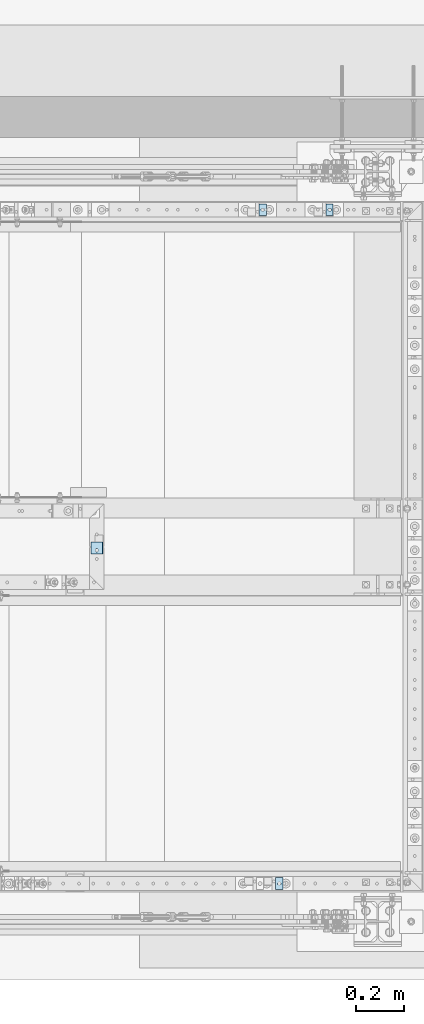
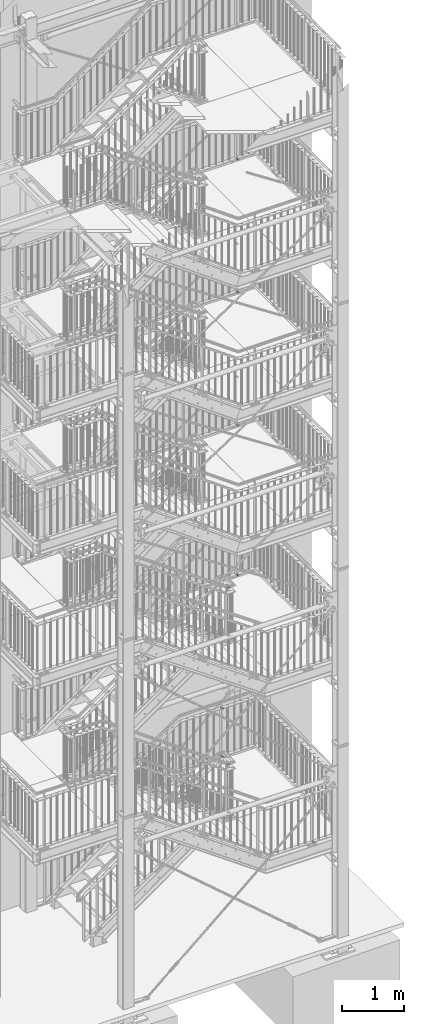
# One storey, part 229 of 825: 14 plates, 14 openings.
"""IFC2X3 building model written with IfcOpenShell, lengths in millimetres."""

import ifcopenshell
import ifcopenshell.guid

model = None  # the IFC model being written
_history = None  # IfcOwnerHistory: only IFC2X3 demands one
_inside = {}  # id of a spatial element -> (the spatial element, [elements in it])
_under = {}  # id of a project, library or spatial element -> (it, [spatial elements below it])
_declared = {}  # id of a project -> (the project, [libraries it declares])
_typed = {}  # id of a type object -> (the type object, [elements of that type])
_made_of = {}  # id of a material, layer set ... -> (it, [elements and type objects made of it])


def new_model(schema):
    """Start an empty IFC model of exactly this schema.

    Asked for "IFC4X3", IfcOpenShell would pick the latest addendum, in which some entities
    have other attributes; the version numbers below select the first issue.
    IFC2X3 requires an IfcOwnerHistory on every rooted entity: one is made here for all.
    """
    global model, _history
    if schema == "IFC4X3":
        model = ifcopenshell.file(schema_version=(4, 3, 0, 0))
    else:
        model = ifcopenshell.file(schema=schema)
    _inside.clear()
    _under.clear()
    _declared.clear()
    _typed.clear()
    _made_of.clear()
    _history = None
    if model.schema == "IFC2X3":
        org = make("IfcOrganization", Name="unknown")
        user = make(
            "IfcPersonAndOrganization",
            ThePerson=make("IfcPerson", FamilyName="unknown"),
            TheOrganization=org,
        )
        app = make(
            "IfcApplication",
            ApplicationDeveloper=org,
            Version="unknown",
            ApplicationFullName="unknown",
            ApplicationIdentifier="unknown",
        )
        _history = make(
            "IfcOwnerHistory",
            OwningUser=user,
            OwningApplication=app,
            ChangeAction="ADDED",
            CreationDate=0,
        )
    return model


def make(cls, **values):
    """One entity of the class cls with the attributes given. An attribute that is None is left unset."""
    return model.create_entity(
        cls, **{name: value for name, value in values.items() if value is not None}
    )


def entity(cls, *values):
    """Any entity or typed value of the class cls, its attributes in the order of the schema. None: left unset."""
    e = model.create_entity(cls)
    for i, value in enumerate(values):
        if value is not None:
            e[i] = value
    return e


def rooted(cls, **values):
    """An entity with a GlobalId (a new one), such as an element, a storey or a relation."""
    return make(cls, GlobalId=ifcopenshell.guid.new(), OwnerHistory=_history, **values)


def si_unit(unit_type, name, prefix=None):
    """IfcSIUnit, for example si_unit("LENGTHUNIT", "METRE", prefix="MILLI")."""
    return make("IfcSIUnit", UnitType=unit_type, Prefix=prefix, Name=name)


def converted_unit(unit_type, name, factor, base, dimensions=None, offset=None):
    """IfcConversionBasedUnit, such as the inch: factor (a typed value) times the base unit."""
    return make(
        "IfcConversionBasedUnit"
        if offset is None
        else "IfcConversionBasedUnitWithOffset",
        ConversionOffset=offset,
        Dimensions=None
        if dimensions is None
        else entity("IfcDimensionalExponents", *dimensions),
        UnitType=unit_type,
        Name=name,
        ConversionFactor=make(
            "IfcMeasureWithUnit", ValueComponent=factor, UnitComponent=base
        ),
    )


def assignment(units):
    """IfcUnitAssignment: the units of a project."""
    return None if units is None else make("IfcUnitAssignment", Units=units)


def point(xyz):
    """IfcCartesianPoint."""
    return None if xyz is None else make("IfcCartesianPoint", Coordinates=xyz)


def direction(xyz):
    """IfcDirection."""
    return None if xyz is None else make("IfcDirection", DirectionRatios=xyz)


def frame(location, z_axis=None, x_axis=None):
    """IfcAxis2Placement3D, a coordinate frame: its origin and axes. An axis left out is left unset."""
    return make(
        "IfcAxis2Placement3D",
        Location=point(location),
        Axis=direction(z_axis),
        RefDirection=direction(x_axis),
    )


def frame_2d(location, x_axis=None):
    """IfcAxis2Placement2D, a coordinate frame in the plane: its origin and x axis."""
    return make(
        "IfcAxis2Placement2D", Location=point(location), RefDirection=direction(x_axis)
    )


def origin():
    """The frame at (0, 0, 0) with its axes left unset."""
    return frame((0.0, 0.0, 0.0))


def origin_with_axes():
    """The frame at (0, 0, 0) with the z axis (0, 0, 1) and the x axis (1, 0, 0) written out."""
    return frame((0.0, 0.0, 0.0), z_axis=(0.0, 0.0, 1.0), x_axis=(1.0, 0.0, 0.0))


def place(relative_to, where):
    """IfcLocalPlacement: puts the frame where relative to a parent placement (None: the world)."""
    return make(
        "IfcLocalPlacement", PlacementRelTo=relative_to, RelativePlacement=where
    )


def context(
    kind, dimensions, precision=None, world=None, true_north=None, identifier=None
):
    """IfcGeometricRepresentationContext, for example the 3D "Model" context."""
    return make(
        "IfcGeometricRepresentationContext",
        ContextIdentifier=identifier,
        ContextType=kind,
        CoordinateSpaceDimension=dimensions,
        Precision=precision,
        WorldCoordinateSystem=world,
        TrueNorth=true_north,
    )


def project(units=None, contexts=None):
    """IfcProject with its units and contexts."""
    return rooted(
        "IfcProject",
        Name="project",
        RepresentationContexts=contexts,
        UnitsInContext=assignment(units),
    )


def spatial(cls, under=None, at=None, **own):
    """A site, building, storey or space (cls), placed at a placement, below another one or the project."""
    s = rooted(cls, ObjectPlacement=at, **own)
    if under is not None:
        _under.setdefault(under.id(), (under, []))[1].append(s)
    return s


def polyline(points):
    """IfcPolyline through the points."""
    return make("IfcPolyline", Points=[point(p) for p in points])


def circle_curve(where, radius):
    """IfcCircle in the frame where."""
    return make("IfcCircle", Position=where, Radius=radius)


def line_curve(start, along, magnitude):
    """IfcLine from a point along a vector."""
    return make(
        "IfcLine",
        Pnt=point(start),
        Dir=make("IfcVector", Orientation=direction(along), Magnitude=magnitude),
    )


def trimmed(basis, trim1, trim2, sense, master):
    """IfcTrimmedCurve: the piece of a basis curve between two trims."""
    return make(
        "IfcTrimmedCurve",
        BasisCurve=basis,
        Trim1=trim1,
        Trim2=trim2,
        SenseAgreement=sense,
        MasterRepresentation=master,
    )


def segment(curve, same_sense, transition):
    """IfcCompositeCurveSegment."""
    return make(
        "IfcCompositeCurveSegment",
        Transition=transition,
        SameSense=same_sense,
        ParentCurve=curve,
    )


def composite_curve(segments, self_intersect=None):
    """IfcCompositeCurve: segments joined end to end."""
    return make("IfcCompositeCurve", Segments=segments, SelfIntersect=self_intersect)


def outline(outer, holes=None, kind="AREA"):
    """IfcArbitraryClosedProfileDef: a profile drawn as a closed curve; with holes, ...WithVoids."""
    if holes is None:
        return make("IfcArbitraryClosedProfileDef", ProfileType=kind, OuterCurve=outer)
    return make(
        "IfcArbitraryProfileDefWithVoids",
        ProfileType=kind,
        OuterCurve=outer,
        InnerCurves=holes,
    )


def extrude(swept, where, along, depth):
    """IfcExtrudedAreaSolid: the profile swept, set in the frame where, extruded along a direction by depth."""
    return make(
        "IfcExtrudedAreaSolid",
        SweptArea=swept,
        Position=where,
        ExtrudedDirection=direction(along),
        Depth=depth,
    )


def shape(context_of_items, identifier, shape_type, items):
    """IfcShapeRepresentation: the items that make up one representation, for example the "Body"."""
    return make(
        "IfcShapeRepresentation",
        ContextOfItems=context_of_items,
        RepresentationIdentifier=identifier,
        RepresentationType=shape_type,
        Items=items,
    )


def material(Name=None, Category=None):
    """IfcMaterial."""
    return make("IfcMaterial", Name=Name, Category=Category)


def layer(
    of_material, thickness, ventilated=None, Name=None, Category=None, Priority=None
):
    """IfcMaterialLayer: one layer of a wall or slab, of a material (None: an air gap)."""
    return make(
        "IfcMaterialLayer",
        Material=of_material,
        LayerThickness=thickness,
        IsVentilated=ventilated,
        Name=Name,
        Category=Category,
        Priority=Priority,
    )


def layer_set(layers, Name=None):
    """IfcMaterialLayerSet."""
    return make("IfcMaterialLayerSet", MaterialLayers=layers, LayerSetName=Name)


def made_of(thing, what):
    """Note that an element or type object is made of a material, layer set ...; save() writes the relation."""
    if what is not None:
        _made_of.setdefault(what.id(), (what, []))[1].append(thing)
    return thing


def element(
    cls,
    number,
    at=None,
    inside=None,
    cuts=None,
    type_object=None,
    material=None,
    context=None,
    identifier="Body",
    shape_type=None,
    held_by="IfcProductDefinitionShape",
    body=None,
    shapes=None,
    **own,
):
    """One element of the class cls, such as IfcWall. Its Tag is "e" and its number.

    at: its placement. inside: the storey or other place that contains it. cuts: it is an
    opening in that element (IfcRelVoidsElement). A single representation is given by context,
    identifier, shape_type and body (its items); several are given by shapes. held_by: the class
    of the entity that holds the representations. save() writes the other relations.
    """
    e = rooted(cls, Tag="e%d" % number, ObjectPlacement=at, **own)
    if body is not None:
        shapes = [shape(context, identifier, shape_type, body)]
    if shapes is not None:
        e.Representation = make(held_by, Representations=shapes)
    if inside is not None:
        _inside.setdefault(inside.id(), (inside, []))[1].append(e)
    if cuts is not None:
        rooted(
            "IfcRelVoidsElement", RelatingBuildingElement=cuts, RelatedOpeningElement=e
        )
    if type_object is not None:
        _typed.setdefault(type_object.id(), (type_object, []))[1].append(e)
    return made_of(e, material)


def aggregate(whole, parts):
    """IfcRelAggregates: a whole, such as a stair, and the parts it consists of."""
    return rooted("IfcRelAggregates", RelatingObject=whole, RelatedObjects=parts)


def save(model, path):
    """Write the relations noted so far, then the file.

    IfcRelAggregates (storeys below a building ...), IfcRelContainedInSpatialStructure (elements
    in a storey), IfcRelDefinesByType, IfcRelAssociatesMaterial and IfcRelDeclares: one each for
    every whole, place, type object, material and project.
    """
    for whole, parts in _under.values():
        aggregate(whole, parts)
    for where, things in _inside.values():
        rooted(
            "IfcRelContainedInSpatialStructure",
            RelatedElements=things,
            RelatingStructure=where,
        )
    for kind, things in _typed.values():
        rooted("IfcRelDefinesByType", RelatedObjects=things, RelatingType=kind)
    for what, things in _made_of.values():
        rooted("IfcRelAssociatesMaterial", RelatedObjects=things, RelatingMaterial=what)
    for by, libraries in _declared.values():
        rooted("IfcRelDeclares", RelatingContext=by, RelatedDefinitions=libraries)
    model.write(path)


model = new_model("IFC2X3")

# Units and contexts
model_context = context("Model", 3, precision=1e-09, world=origin_with_axes())
ifc_project = project(units=[si_unit("LENGTHUNIT", "METRE", prefix="MILLI"), si_unit("AREAUNIT", "SQUARE_METRE"), si_unit("VOLUMEUNIT", "CUBIC_METRE"), converted_unit("PLANEANGLEUNIT", "DEGREE", entity("IfcPlaneAngleMeasure", 0.01745329), si_unit("PLANEANGLEUNIT", "RADIAN"), dimensions=[0, 0, 0, 0, 0, 0, 0])], contexts=[model_context])

# Site, building, storey
site_placement = place(None, origin_with_axes())
site = spatial("IfcSite", under=ifc_project, at=site_placement, Name="Cnopf'sche Kinderklinik", CompositionType="ELEMENT")
building_placement = place(site_placement, origin_with_axes())
building = spatial("IfcBuilding", under=site, at=building_placement, Name="Struktur 1", CompositionType="ELEMENT")
storey_placement = place(building_placement, origin_with_axes())
storey = spatial("IfcBuildingStorey", under=building, at=storey_placement, Name="Default Storey", CompositionType="ELEMENT", Elevation=0.0)

# Plate, opening
ifc_material = material(Name="S235JR")
ifc_layer = layer(ifc_material, 6.0)
ifc_layer_set = layer_set([ifc_layer], Name="S235JR")
plate_1_placement = place(None, frame((8383.444225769, 7356.736971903, 2235.0526312), z_axis=(0.0, 0.0, 1.0), x_axis=(1.0, 0.0, 0.0)))
plate_1 = element("IfcPlate", 1, at=plate_1_placement, inside=storey, material=ifc_layer_set, Name="-", ObjectType="-", context=model_context, shape_type="SweptSolid", body=[
    extrude(outline(polyline([(-15.0, -25.0), (15.0, -25.0), (15.0, 25.0), (-15.0, 25.0), (-15.0, -25.0)])), origin_with_axes(), (0.0, 0.0, 1.0), 6.0),
])
opening_1_placement = place(plate_1_placement, frame((-1e-09, 0.0, -0.5), z_axis=(0.0, 0.0, 1.0), x_axis=(1.0, 0.0, 0.0)))
element("IfcOpeningElement", 2, at=opening_1_placement, cuts=plate_1, ObjectType="Opening", context=model_context, shape_type="SweptSolid", body=[
    extrude(outline(composite_curve([segment(trimmed(line_curve((-2.5, -5.001), (1.0, 0.0), 5.0), [point((-2.5, -5.001))], [point((2.5, -5.001))], True, "CARTESIAN"), True, "CONTINUOUS"), segment(trimmed(circle_curve(frame_2d((2.5, 0.0), x_axis=(1.0, 0.0)), 5.001), [point((2.5, -5.001))], [point((2.5, 5.001))], True, "CARTESIAN"), True, "CONTINUOUS"), segment(trimmed(line_curve((2.5, 5.001), (-1.0, 0.0), 5.0), [point((2.5, 5.001))], [point((-2.5, 5.001))], True, "CARTESIAN"), True, "CONTINUOUS"), segment(trimmed(circle_curve(frame_2d((-2.5, 0.0), x_axis=(1.0, 0.0)), 5.001), [point((-2.5, 5.001))], [point((-2.5, -5.001))], True, "CARTESIAN"), True, "CONTINUOUS")], self_intersect=False)), origin(), (0.0, 0.0, 1.0), 7.0),
])

plate_2_placement = place(None, frame((8383.444225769, 7356.736971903, 3183.8526312), z_axis=(0.0, 0.0, 1.0), x_axis=(1.0, 0.0, 0.0)))
plate_2 = element("IfcPlate", 3, at=plate_2_placement, inside=storey, material=ifc_layer_set, Name="-", ObjectType="-", context=model_context, shape_type="SweptSolid", body=[
    extrude(outline(polyline([(-15.0, -25.0), (15.0, -25.0), (15.0, 25.0), (-15.0, 25.0), (-15.0, -25.0)])), origin_with_axes(), (0.0, 0.0, 1.0), 6.0),
])
opening_2_placement = place(plate_2_placement, frame((-1e-09, 0.0, -0.5), z_axis=(0.0, 0.0, 1.0), x_axis=(1.0, 0.0, 0.0)))
element("IfcOpeningElement", 4, at=opening_2_placement, cuts=plate_2, ObjectType="Opening", context=model_context, shape_type="SweptSolid", body=[
    extrude(outline(composite_curve([segment(trimmed(line_curve((-2.5, -5.001), (1.0, 0.0), 5.0), [point((-2.5, -5.001))], [point((2.5, -5.001))], True, "CARTESIAN"), True, "CONTINUOUS"), segment(trimmed(circle_curve(frame_2d((2.5, 0.0), x_axis=(1.0, 0.0)), 5.001), [point((2.5, -5.001))], [point((2.5, 5.001))], True, "CARTESIAN"), True, "CONTINUOUS"), segment(trimmed(line_curve((2.5, 5.001), (-1.0, 0.0), 5.0), [point((2.5, 5.001))], [point((-2.5, 5.001))], True, "CARTESIAN"), True, "CONTINUOUS"), segment(trimmed(circle_curve(frame_2d((-2.5, 0.0), x_axis=(1.0, 0.0)), 5.001), [point((-2.5, 5.001))], [point((-2.5, -5.001))], True, "CARTESIAN"), True, "CONTINUOUS")], self_intersect=False)), origin(), (0.0, 0.0, 1.0), 7.0),
])

plate_3_placement = place(None, frame((8664.213974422, 7356.736971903, 5728.8947367), z_axis=(0.0, 0.0, 1.0), x_axis=(1.0, 0.0, 0.0)))
plate_3 = element("IfcPlate", 5, at=plate_3_placement, inside=storey, material=ifc_layer_set, Name="-", ObjectType="-", context=model_context, shape_type="SweptSolid", body=[
    extrude(outline(polyline([(-15.0, -25.0), (15.0, -25.0), (15.0, 25.0), (-15.0, 25.0), (-15.0, -25.0)])), origin_with_axes(), (0.0, 0.0, 1.0), 6.0),
])
opening_3_placement = place(plate_3_placement, frame((-1e-09, 0.0, -0.5), z_axis=(0.0, 0.0, 1.0), x_axis=(1.0, 0.0, 0.0)))
element("IfcOpeningElement", 6, at=opening_3_placement, cuts=plate_3, ObjectType="Opening", context=model_context, shape_type="SweptSolid", body=[
    extrude(outline(composite_curve([segment(trimmed(line_curve((-2.5, -5.001), (1.0, 0.0), 5.0), [point((-2.5, -5.001))], [point((2.5, -5.001))], True, "CARTESIAN"), True, "CONTINUOUS"), segment(trimmed(circle_curve(frame_2d((2.5, 0.0), x_axis=(1.0, 0.0)), 5.001), [point((2.5, -5.001))], [point((2.5, 5.001))], True, "CARTESIAN"), True, "CONTINUOUS"), segment(trimmed(line_curve((2.5, 5.001), (-1.0, 0.0), 5.0), [point((2.5, 5.001))], [point((-2.5, 5.001))], True, "CARTESIAN"), True, "CONTINUOUS"), segment(trimmed(circle_curve(frame_2d((-2.5, 0.0), x_axis=(1.0, 0.0)), 5.001), [point((-2.5, 5.001))], [point((-2.5, -5.001))], True, "CARTESIAN"), True, "CONTINUOUS")], self_intersect=False)), origin(), (0.0, 0.0, 1.0), 7.0),
])

plate_4_placement = place(None, frame((8664.213974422, 7356.736971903, 6677.6947367), z_axis=(0.0, 0.0, 1.0), x_axis=(1.0, 0.0, 0.0)))
plate_4 = element("IfcPlate", 7, at=plate_4_placement, inside=storey, material=ifc_layer_set, Name="-", ObjectType="-", context=model_context, shape_type="SweptSolid", body=[
    extrude(outline(polyline([(-15.0, -25.0), (15.0, -25.0), (15.0, 25.0), (-15.0, 25.0), (-15.0, -25.0)])), origin_with_axes(), (0.0, 0.0, 1.0), 6.0),
])
opening_4_placement = place(plate_4_placement, frame((-1e-09, 0.0, -0.5), z_axis=(0.0, 0.0, 1.0), x_axis=(1.0, 0.0, 0.0)))
element("IfcOpeningElement", 8, at=opening_4_placement, cuts=plate_4, ObjectType="Opening", context=model_context, shape_type="SweptSolid", body=[
    extrude(outline(composite_curve([segment(trimmed(line_curve((-2.5, -5.001), (1.0, 0.0), 5.0), [point((-2.5, -5.001))], [point((2.5, -5.001))], True, "CARTESIAN"), True, "CONTINUOUS"), segment(trimmed(circle_curve(frame_2d((2.5, 0.0), x_axis=(1.0, 0.0)), 5.001), [point((2.5, -5.001))], [point((2.5, 5.001))], True, "CARTESIAN"), True, "CONTINUOUS"), segment(trimmed(line_curve((2.5, 5.001), (-1.0, 0.0), 5.0), [point((2.5, 5.001))], [point((-2.5, 5.001))], True, "CARTESIAN"), True, "CONTINUOUS"), segment(trimmed(circle_curve(frame_2d((-2.5, 0.0), x_axis=(1.0, 0.0)), 5.001), [point((-2.5, 5.001))], [point((-2.5, -5.001))], True, "CARTESIAN"), True, "CONTINUOUS")], self_intersect=False)), origin(), (0.0, 0.0, 1.0), 7.0),
])

plate_5_placement = place(None, frame((8664.213974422, 7356.736971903, 8690.0), z_axis=(0.0, 0.0, 1.0), x_axis=(1.0, 0.0, 0.0)))
plate_5 = element("IfcPlate", 9, at=plate_5_placement, inside=storey, material=ifc_layer_set, Name="-", ObjectType="-", context=model_context, shape_type="SweptSolid", body=[
    extrude(outline(polyline([(-15.0, -25.0), (15.0, -25.0), (15.0, 25.0), (-15.0, 25.0), (-15.0, -25.0)])), origin_with_axes(), (0.0, 0.0, 1.0), 6.0),
])
opening_5_placement = place(plate_5_placement, frame((-1e-09, 0.0, -0.5), z_axis=(0.0, 0.0, 1.0), x_axis=(1.0, 0.0, 0.0)))
element("IfcOpeningElement", 10, at=opening_5_placement, cuts=plate_5, ObjectType="Opening", context=model_context, shape_type="SweptSolid", body=[
    extrude(outline(composite_curve([segment(trimmed(line_curve((-2.5, -5.001), (1.0, 0.0), 5.0), [point((-2.5, -5.001))], [point((2.5, -5.001))], True, "CARTESIAN"), True, "CONTINUOUS"), segment(trimmed(circle_curve(frame_2d((2.5, 0.0), x_axis=(1.0, 0.0)), 5.001), [point((2.5, -5.001))], [point((2.5, 5.001))], True, "CARTESIAN"), True, "CONTINUOUS"), segment(trimmed(line_curve((2.5, 5.001), (-1.0, 0.0), 5.0), [point((2.5, 5.001))], [point((-2.5, 5.001))], True, "CARTESIAN"), True, "CONTINUOUS"), segment(trimmed(circle_curve(frame_2d((-2.5, 0.0), x_axis=(1.0, 0.0)), 5.001), [point((-2.5, 5.001))], [point((-2.5, -5.001))], True, "CARTESIAN"), True, "CONTINUOUS")], self_intersect=False)), origin(), (0.0, 0.0, 1.0), 7.0),
])

plate_6_placement = place(None, frame((8664.213974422, 7356.736971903, 9638.8), z_axis=(0.0, 0.0, 1.0), x_axis=(1.0, 0.0, 0.0)))
plate_6 = element("IfcPlate", 11, at=plate_6_placement, inside=storey, material=ifc_layer_set, Name="-", ObjectType="-", context=model_context, shape_type="SweptSolid", body=[
    extrude(outline(polyline([(-15.0, -25.0), (15.0, -25.0), (15.0, 25.0), (-15.0, 25.0), (-15.0, -25.0)])), origin_with_axes(), (0.0, 0.0, 1.0), 6.0),
])
opening_6_placement = place(plate_6_placement, frame((-1e-09, 0.0, -0.5), z_axis=(0.0, 0.0, 1.0), x_axis=(1.0, 0.0, 0.0)))
element("IfcOpeningElement", 12, at=opening_6_placement, cuts=plate_6, ObjectType="Opening", context=model_context, shape_type="SweptSolid", body=[
    extrude(outline(composite_curve([segment(trimmed(line_curve((-2.5, -5.001), (1.0, 0.0), 5.0), [point((-2.5, -5.001))], [point((2.5, -5.001))], True, "CARTESIAN"), True, "CONTINUOUS"), segment(trimmed(circle_curve(frame_2d((2.5, 0.0), x_axis=(1.0, 0.0)), 5.001), [point((2.5, -5.001))], [point((2.5, 5.001))], True, "CARTESIAN"), True, "CONTINUOUS"), segment(trimmed(line_curve((2.5, 5.001), (-1.0, 0.0), 5.0), [point((2.5, 5.001))], [point((-2.5, 5.001))], True, "CARTESIAN"), True, "CONTINUOUS"), segment(trimmed(circle_curve(frame_2d((-2.5, 0.0), x_axis=(1.0, 0.0)), 5.001), [point((-2.5, 5.001))], [point((-2.5, -5.001))], True, "CARTESIAN"), True, "CONTINUOUS")], self_intersect=False)), origin(), (0.0, 0.0, 1.0), 7.0),
])

plate_7_placement = place(None, frame((8664.213974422, 7356.736971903, 11319.5000003), z_axis=(0.0, 0.0, 1.0), x_axis=(1.0, 0.0, 0.0)))
plate_7 = element("IfcPlate", 13, at=plate_7_placement, inside=storey, material=ifc_layer_set, Name="-", ObjectType="-", context=model_context, shape_type="SweptSolid", body=[
    extrude(outline(polyline([(-15.0, -25.0), (15.0, -25.0), (15.0, 25.0), (-15.0, 25.0), (-15.0, -25.0)])), origin_with_axes(), (0.0, 0.0, 1.0), 6.0),
])
opening_7_placement = place(plate_7_placement, frame((-1e-09, 0.0, -0.5), z_axis=(0.0, 0.0, 1.0), x_axis=(1.0, 0.0, 0.0)))
element("IfcOpeningElement", 14, at=opening_7_placement, cuts=plate_7, ObjectType="Opening", context=model_context, shape_type="SweptSolid", body=[
    extrude(outline(composite_curve([segment(trimmed(line_curve((-2.5, -5.001), (1.0, 0.0), 5.0), [point((-2.5, -5.001))], [point((2.5, -5.001))], True, "CARTESIAN"), True, "CONTINUOUS"), segment(trimmed(circle_curve(frame_2d((2.5, 0.0), x_axis=(1.0, 0.0)), 5.001), [point((2.5, -5.001))], [point((2.5, 5.001))], True, "CARTESIAN"), True, "CONTINUOUS"), segment(trimmed(line_curve((2.5, 5.001), (-1.0, 0.0), 5.0), [point((2.5, 5.001))], [point((-2.5, 5.001))], True, "CARTESIAN"), True, "CONTINUOUS"), segment(trimmed(circle_curve(frame_2d((-2.5, 0.0), x_axis=(1.0, 0.0)), 5.001), [point((-2.5, 5.001))], [point((-2.5, -5.001))], True, "CARTESIAN"), True, "CONTINUOUS")], self_intersect=False)), origin(), (0.0, 0.0, 1.0), 7.0),
])

plate_8_placement = place(None, frame((8664.213974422, 7356.736971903, 12268.3000003), z_axis=(0.0, 0.0, 1.0), x_axis=(1.0, 0.0, 0.0)))
plate_8 = element("IfcPlate", 15, at=plate_8_placement, inside=storey, material=ifc_layer_set, Name="-", ObjectType="-", context=model_context, shape_type="SweptSolid", body=[
    extrude(outline(polyline([(-15.0, -25.0), (15.0, -25.0), (15.0, 25.0), (-15.0, 25.0), (-15.0, -25.0)])), origin_with_axes(), (0.0, 0.0, 1.0), 6.0),
])
opening_8_placement = place(plate_8_placement, frame((-1e-09, 0.0, -0.5), z_axis=(0.0, 0.0, 1.0), x_axis=(1.0, 0.0, 0.0)))
element("IfcOpeningElement", 16, at=opening_8_placement, cuts=plate_8, ObjectType="Opening", context=model_context, shape_type="SweptSolid", body=[
    extrude(outline(composite_curve([segment(trimmed(line_curve((-2.5, -5.001), (1.0, 0.0), 5.0), [point((-2.5, -5.001))], [point((2.5, -5.001))], True, "CARTESIAN"), True, "CONTINUOUS"), segment(trimmed(circle_curve(frame_2d((2.5, 0.0), x_axis=(1.0, 0.0)), 5.001), [point((2.5, -5.001))], [point((2.5, 5.001))], True, "CARTESIAN"), True, "CONTINUOUS"), segment(trimmed(line_curve((2.5, 5.001), (-1.0, 0.0), 5.0), [point((2.5, 5.001))], [point((-2.5, 5.001))], True, "CARTESIAN"), True, "CONTINUOUS"), segment(trimmed(circle_curve(frame_2d((-2.5, 0.0), x_axis=(1.0, 0.0)), 5.001), [point((-2.5, 5.001))], [point((-2.5, -5.001))], True, "CARTESIAN"), True, "CONTINUOUS")], self_intersect=False)), origin(), (0.0, 0.0, 1.0), 7.0),
])

plate_9_placement = place(None, frame((8664.213974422, 7356.736971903, 13950.5000001), z_axis=(0.0, 0.0, 1.0), x_axis=(1.0, 0.0, 0.0)))
plate_9 = element("IfcPlate", 17, at=plate_9_placement, inside=storey, material=ifc_layer_set, Name="-", ObjectType="-", context=model_context, shape_type="SweptSolid", body=[
    extrude(outline(polyline([(-15.0, -25.0), (15.0, -25.0), (15.0, 25.0), (-15.0, 25.0), (-15.0, -25.0)])), origin_with_axes(), (0.0, 0.0, 1.0), 6.0),
])
opening_9_placement = place(plate_9_placement, frame((-1e-09, 0.0, -0.5), z_axis=(0.0, 0.0, 1.0), x_axis=(1.0, 0.0, 0.0)))
element("IfcOpeningElement", 18, at=opening_9_placement, cuts=plate_9, ObjectType="Opening", context=model_context, shape_type="SweptSolid", body=[
    extrude(outline(composite_curve([segment(trimmed(line_curve((-2.5, -5.001), (1.0, 0.0), 5.0), [point((-2.5, -5.001))], [point((2.5, -5.001))], True, "CARTESIAN"), True, "CONTINUOUS"), segment(trimmed(circle_curve(frame_2d((2.5, 0.0), x_axis=(1.0, 0.0)), 5.001), [point((2.5, -5.001))], [point((2.5, 5.001))], True, "CARTESIAN"), True, "CONTINUOUS"), segment(trimmed(line_curve((2.5, 5.001), (-1.0, 0.0), 5.0), [point((2.5, 5.001))], [point((-2.5, 5.001))], True, "CARTESIAN"), True, "CONTINUOUS"), segment(trimmed(circle_curve(frame_2d((-2.5, 0.0), x_axis=(1.0, 0.0)), 5.001), [point((-2.5, 5.001))], [point((-2.5, -5.001))], True, "CARTESIAN"), True, "CONTINUOUS")], self_intersect=False)), origin(), (0.0, 0.0, 1.0), 7.0),
])

plate_10_placement = place(None, frame((7686.536342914, 5936.736971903, 2235.0526312), z_axis=(0.0, 0.0, -1.0), x_axis=(0.0, -1.0, 0.0)))
plate_10 = element("IfcPlate", 19, at=plate_10_placement, inside=storey, material=ifc_layer_set, Name="-", ObjectType="-", context=model_context, shape_type="SweptSolid", body=[
    extrude(outline(polyline([(-25.0, -25.0), (25.0, -25.0), (25.0, 25.0), (-25.0, 25.0), (-25.0, -25.0)])), origin_with_axes(), (0.0, 0.0, -1.0), 6.0),
])
opening_10_placement = place(plate_10_placement, frame((7.499999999, -5.001, 0.5), z_axis=(0.0, 0.0, 1.0), x_axis=(1.0, 0.0, 0.0)))
element("IfcOpeningElement", 20, at=opening_10_placement, cuts=plate_10, ObjectType="Opening", context=model_context, shape_type="SweptSolid", body=[
    extrude(outline(composite_curve([segment(trimmed(line_curve((0.0, 0.0), (1.0, 0.0), 5.0), [point((0.0, 0.0))], [point((5.0, 0.0))], True, "CARTESIAN"), True, "CONTINUOUS"), segment(trimmed(circle_curve(frame_2d((5.0, 5.001), x_axis=(1.0, 0.0)), 5.001), [point((5.0, 0.0))], [point((5.0, 10.002))], True, "CARTESIAN"), True, "CONTINUOUS"), segment(trimmed(line_curve((5.0, 10.002), (-1.0, 0.0), 5.0), [point((5.0, 10.002))], [point((0.0, 10.002))], True, "CARTESIAN"), True, "CONTINUOUS"), segment(trimmed(circle_curve(frame_2d((0.0, 5.001), x_axis=(1.0, 0.0)), 5.001), [point((0.0, 10.002))], [point((0.0, 0.0))], True, "CARTESIAN"), True, "CONTINUOUS")], self_intersect=False)), origin(), (0.0, 0.0, -1.0), 7.0),
])

plate_11_placement = place(None, frame((7686.536342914, 5936.736971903, 3183.8526312), z_axis=(0.0, 0.0, -1.0), x_axis=(0.0, -1.0, 0.0)))
plate_11 = element("IfcPlate", 21, at=plate_11_placement, inside=storey, material=ifc_layer_set, Name="-", ObjectType="-", context=model_context, shape_type="SweptSolid", body=[
    extrude(outline(polyline([(-25.0, -25.0), (25.0, -25.0), (25.0, 25.0), (-25.0, 25.0), (-25.0, -25.0)])), origin_with_axes(), (0.0, 0.0, -1.0), 6.0),
])
opening_11_placement = place(plate_11_placement, frame((7.499999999, -5.001, 0.5), z_axis=(0.0, 0.0, 1.0), x_axis=(1.0, 0.0, 0.0)))
element("IfcOpeningElement", 22, at=opening_11_placement, cuts=plate_11, ObjectType="Opening", context=model_context, shape_type="SweptSolid", body=[
    extrude(outline(composite_curve([segment(trimmed(line_curve((0.0, 0.0), (1.0, 0.0), 5.0), [point((0.0, 0.0))], [point((5.0, 0.0))], True, "CARTESIAN"), True, "CONTINUOUS"), segment(trimmed(circle_curve(frame_2d((5.0, 5.001), x_axis=(1.0, 0.0)), 5.001), [point((5.0, 0.0))], [point((5.0, 10.002))], True, "CARTESIAN"), True, "CONTINUOUS"), segment(trimmed(line_curve((5.0, 10.002), (-1.0, 0.0), 5.0), [point((5.0, 10.002))], [point((0.0, 10.002))], True, "CARTESIAN"), True, "CONTINUOUS"), segment(trimmed(circle_curve(frame_2d((0.0, 5.001), x_axis=(1.0, 0.0)), 5.001), [point((0.0, 10.002))], [point((0.0, 0.0))], True, "CARTESIAN"), True, "CONTINUOUS")], self_intersect=False)), origin(), (0.0, 0.0, -1.0), 7.0),
])

plate_12_placement = place(None, frame((7686.115085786, 5936.736971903, 5728.8947367), z_axis=(0.0, 0.0, -1.0), x_axis=(0.0, -1.0, 0.0)))
plate_12 = element("IfcPlate", 23, at=plate_12_placement, inside=storey, material=ifc_layer_set, Name="-", ObjectType="-", context=model_context, shape_type="SweptSolid", body=[
    extrude(outline(polyline([(-25.0, -25.0), (25.0, -25.0), (25.0, 25.0), (-25.0, 25.0), (-25.0, -25.0)])), origin_with_axes(), (0.0, 0.0, -1.0), 6.0),
])
opening_12_placement = place(plate_12_placement, frame((7.499999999, -5.001, 0.5), z_axis=(0.0, 0.0, 1.0), x_axis=(1.0, 0.0, 0.0)))
element("IfcOpeningElement", 24, at=opening_12_placement, cuts=plate_12, ObjectType="Opening", context=model_context, shape_type="SweptSolid", body=[
    extrude(outline(composite_curve([segment(trimmed(line_curve((0.0, 0.0), (1.0, 0.0), 5.0), [point((0.0, 0.0))], [point((5.0, 0.0))], True, "CARTESIAN"), True, "CONTINUOUS"), segment(trimmed(circle_curve(frame_2d((5.0, 5.001), x_axis=(1.0, 0.0)), 5.001), [point((5.0, 0.0))], [point((5.0, 10.002))], True, "CARTESIAN"), True, "CONTINUOUS"), segment(trimmed(line_curve((5.0, 10.002), (-1.0, 0.0), 5.0), [point((5.0, 10.002))], [point((0.0, 10.002))], True, "CARTESIAN"), True, "CONTINUOUS"), segment(trimmed(circle_curve(frame_2d((0.0, 5.001), x_axis=(1.0, 0.0)), 5.001), [point((0.0, 10.002))], [point((0.0, 0.0))], True, "CARTESIAN"), True, "CONTINUOUS")], self_intersect=False)), origin(), (0.0, 0.0, -1.0), 7.0),
])

plate_13_placement = place(None, frame((7686.115085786, 5936.736971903, 6677.6947367), z_axis=(0.0, 0.0, -1.0), x_axis=(0.0, -1.0, 0.0)))
plate_13 = element("IfcPlate", 25, at=plate_13_placement, inside=storey, material=ifc_layer_set, Name="-", ObjectType="-", context=model_context, shape_type="SweptSolid", body=[
    extrude(outline(polyline([(-25.0, -25.0), (25.0, -25.0), (25.0, 25.0), (-25.0, 25.0), (-25.0, -25.0)])), origin_with_axes(), (0.0, 0.0, -1.0), 6.0),
])
opening_13_placement = place(plate_13_placement, frame((7.499999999, -5.001, 0.5), z_axis=(0.0, 0.0, 1.0), x_axis=(1.0, 0.0, 0.0)))
element("IfcOpeningElement", 26, at=opening_13_placement, cuts=plate_13, ObjectType="Opening", context=model_context, shape_type="SweptSolid", body=[
    extrude(outline(composite_curve([segment(trimmed(line_curve((0.0, 0.0), (1.0, 0.0), 5.0), [point((0.0, 0.0))], [point((5.0, 0.0))], True, "CARTESIAN"), True, "CONTINUOUS"), segment(trimmed(circle_curve(frame_2d((5.0, 5.001), x_axis=(1.0, 0.0)), 5.001), [point((5.0, 0.0))], [point((5.0, 10.002))], True, "CARTESIAN"), True, "CONTINUOUS"), segment(trimmed(line_curve((5.0, 10.002), (-1.0, 0.0), 5.0), [point((5.0, 10.002))], [point((0.0, 10.002))], True, "CARTESIAN"), True, "CONTINUOUS"), segment(trimmed(circle_curve(frame_2d((0.0, 5.001), x_axis=(1.0, 0.0)), 5.001), [point((0.0, 10.002))], [point((0.0, 0.0))], True, "CARTESIAN"), True, "CONTINUOUS")], self_intersect=False)), origin(), (0.0, 0.0, -1.0), 7.0),
])

plate_14_placement = place(None, frame((8452.674109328, 4526.736971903, 2235.0526312), z_axis=(0.0, 0.0, 1.0), x_axis=(1.0, 0.0, 0.0)))
plate_14 = element("IfcPlate", 27, at=plate_14_placement, inside=storey, material=ifc_layer_set, Name="-", ObjectType="-", context=model_context, shape_type="SweptSolid", body=[
    extrude(outline(polyline([(-15.0, -25.0), (15.0, -25.0), (15.0, 25.0), (-15.0, 25.0), (-15.0, -25.0)])), origin_with_axes(), (0.0, 0.0, 1.0), 6.0),
])
opening_14_placement = place(plate_14_placement, frame((-1e-09, 0.0, -0.5), z_axis=(0.0, 0.0, 1.0), x_axis=(1.0, 0.0, 0.0)))
element("IfcOpeningElement", 28, at=opening_14_placement, cuts=plate_14, ObjectType="Opening", context=model_context, shape_type="SweptSolid", body=[
    extrude(outline(composite_curve([segment(trimmed(line_curve((-2.5, -5.001), (1.0, 0.0), 5.0), [point((-2.5, -5.001))], [point((2.5, -5.001))], True, "CARTESIAN"), True, "CONTINUOUS"), segment(trimmed(circle_curve(frame_2d((2.5, 0.0), x_axis=(1.0, 0.0)), 5.001), [point((2.5, -5.001))], [point((2.5, 5.001))], True, "CARTESIAN"), True, "CONTINUOUS"), segment(trimmed(line_curve((2.5, 5.001), (-1.0, 0.0), 5.0), [point((2.5, 5.001))], [point((-2.5, 5.001))], True, "CARTESIAN"), True, "CONTINUOUS"), segment(trimmed(circle_curve(frame_2d((-2.5, 0.0), x_axis=(1.0, 0.0)), 5.001), [point((-2.5, 5.001))], [point((-2.5, -5.001))], True, "CARTESIAN"), True, "CONTINUOUS")], self_intersect=False)), origin(), (0.0, 0.0, 1.0), 7.0),
])

save(model, "model.ifc")
